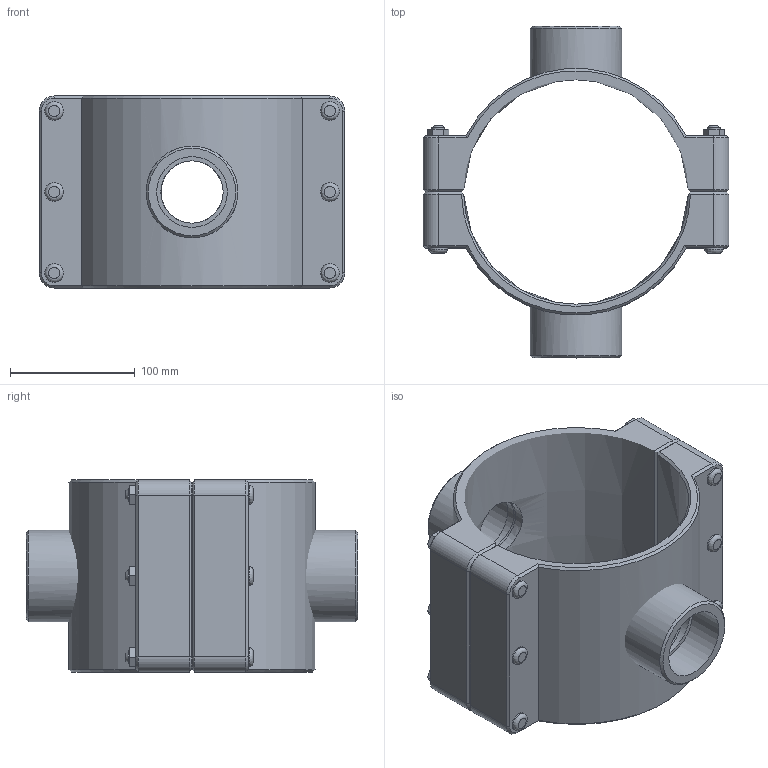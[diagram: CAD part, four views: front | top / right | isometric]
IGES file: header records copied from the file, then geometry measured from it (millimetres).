
Global section: file name: 161760180020_161860180020.ipt; native system: Autodesk Inventor 2015; preprocessor: unknown; author: KIM; date: 20170618.093831; units: millimetre
Bounding box: 245 x 266 x 154 mm (x, y, z)
Volume: 1670847.5 mm3; surface area: 272239 mm2
Topology: 3 solids, 3 shells, 179 faces, 416 edges, 265 vertices
Faces by surface type: plane 102, cylinder 30, cone 28, revolution 19
Full cylindrical faces by diameter (mm): 10 x6, 15 x12, 73.653 x2
